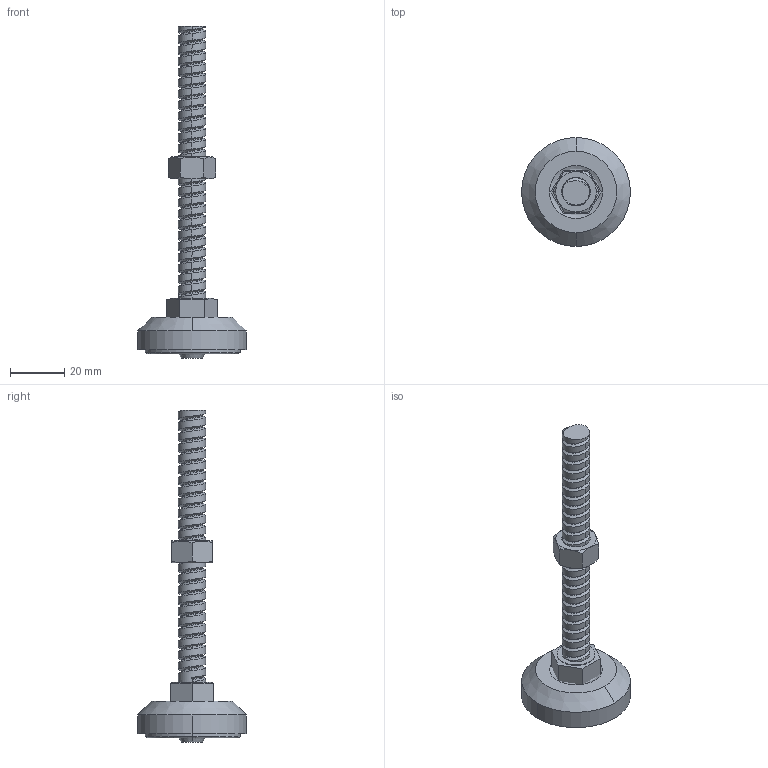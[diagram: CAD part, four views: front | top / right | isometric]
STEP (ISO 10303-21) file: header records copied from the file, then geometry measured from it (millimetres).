
FILE_DESCRIPTION (( 'STEP AP203' ), '1' );
FILE_NAME ('F-102-2-4010-100.STEP', '2015-11-24T02:28:36', ( '' ), ( '' ), 'SwSTEP 2.0', 'SolidWorks 2014', '' );
FILE_SCHEMA (( 'CONFIG_CONTROL_DESIGN' ));
Length unit declared in the file: millimetre
Products named in the file (5): 40橡膠墊; M10X100L-10調整螺絲; M10螺帽; 40圓鐵蓋; F-102-2-4010-100
Assembly tree (4 placements, depth 2):
  F-102-2-4010-100
    M10X100L-10調整螺絲
    40圓鐵蓋
    40橡膠墊
    M10螺帽
Bounding box: 40 x 40 x 121.95 mm (x, y, z)
Volume: 26216.7 mm3; surface area: 13537.5 mm2
Topology: 4 solids, 4 shells, 166 faces, 406 edges, 257 vertices
Faces by surface type: cylinder 77, cone 42, plane 30, bspline 17
Entity records: 11843 total; most frequent: CARTESIAN_POINT 7860, ORIENTED_EDGE 812, DIRECTION 654, EDGE_CURVE 406, AXIS2_PLACEMENT_3D 260, VERTEX_POINT 257, EDGE_LOOP 179, FACE_OUTER_BOUND 166
